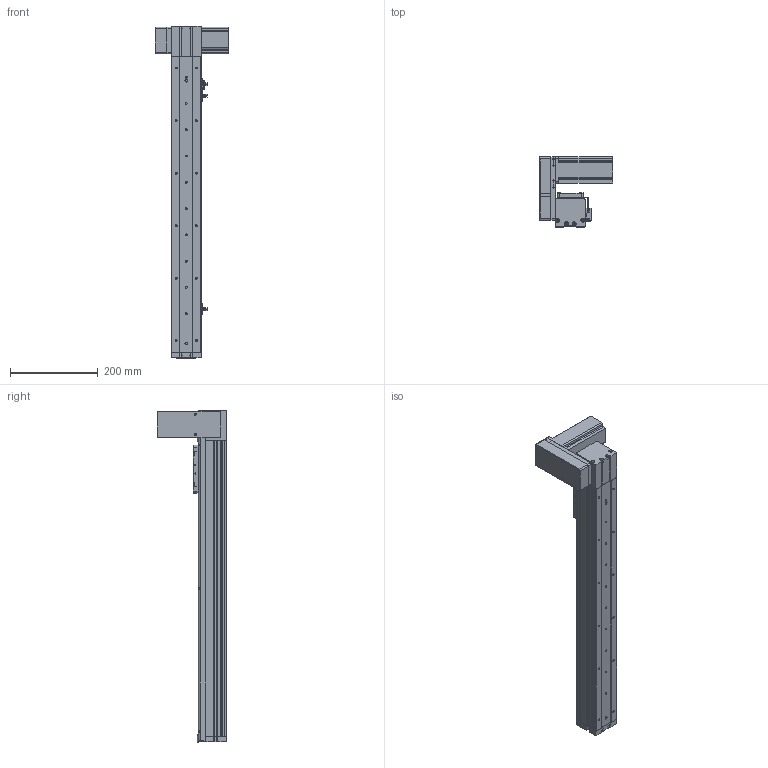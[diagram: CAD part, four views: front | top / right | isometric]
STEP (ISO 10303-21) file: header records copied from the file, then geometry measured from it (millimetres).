
FILE_DESCRIPTION (( 'STEP AP214' ), '1' );
FILE_NAME ('KSD68BS-S500-MRU-CR.STEP', '2019-08-28T06:14:55', ( '微软用户' ), ( '微软中国' ), 'SwSTEP 2.0', 'SolidWorks 2014', '' );
FILE_SCHEMA (( 'AUTOMOTIVE_DESIGN' ));
Length unit declared in the file: millimetre
Products named in the file (14): KSD68BS 500行程侧板全封闭; 68宽单导轨全封闭同步带端板; 68单导轨全封闭同步带电机座右; 68单导轨全封闭同步带安装板; 悵誘欶奻狟殏; 68宽马达安装板连板上折同步带; 感应片68宽全封闭; U倰嫖萇EEㄜSX672; 台达ECMA－C20604AS伺服电机（400W); KSD68BS 500行程底板全封闭; KSD68BS-S500-MRU-CR; KSD68BS 500行程盖板全封闭; 68遵裔啣揤啣1; 68宽单导轨全封闭丝杆传动安装板1防护罩
Assembly tree (17 placements, depth 2):
  KSD68BS-S500-MRU-CR
    KSD68BS 500行程底板全封闭
    台达ECMA－C20604AS伺服电机（400W)
    U倰嫖萇EEㄜSX672  x3
    感应片68宽全封闭
    68宽马达安装板连板上折同步带
    悵誘欶奻狟殏
    68单导轨全封闭同步带安装板
    68单导轨全封闭同步带电机座右
    68宽单导轨全封闭同步带端板
    KSD68BS 500行程侧板全封闭  x2
    68宽单导轨全封闭丝杆传动安装板1防护罩
    68遵裔啣揤啣1  x2
    KSD68BS 500行程盖板全封闭
Bounding box: 167.2 x 159.5 x 758.1 mm (x, y, z)
Volume: 1864246.8 mm3; surface area: 653706.3 mm2
Topology: 18 solids, 18 shells, 1398 faces, 3939 edges, 2531 vertices
Faces by surface type: cylinder 635, plane 627, cone 136
Entity records: 43428 total; most frequent: CARTESIAN_POINT 7293, DIRECTION 6579, ORIENTED_EDGE 6306, EDGE_CURVE 3153, AXIS2_PLACEMENT_3D 2343, VERTEX_POINT 2069, VECTOR 1893, LINE 1893
